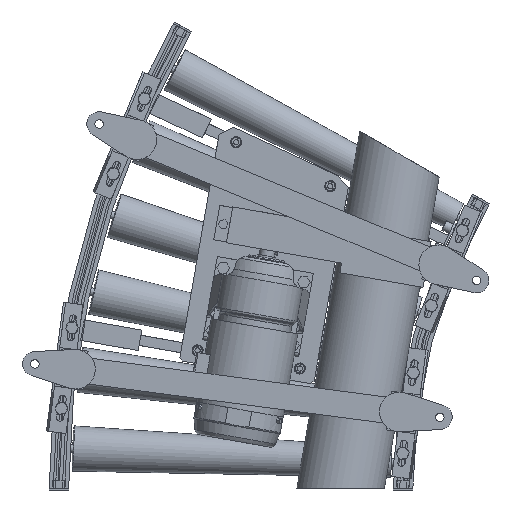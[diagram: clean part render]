
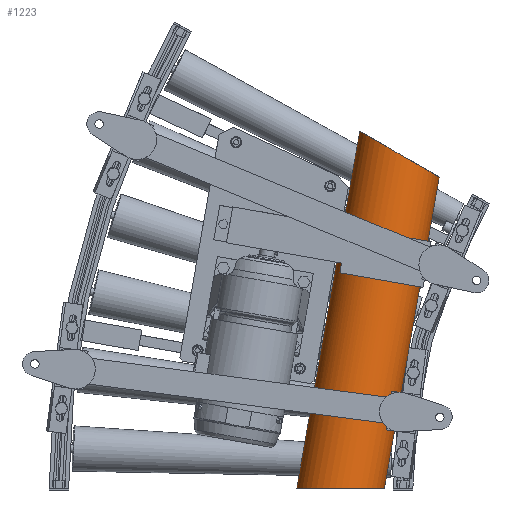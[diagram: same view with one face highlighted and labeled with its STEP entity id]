
A CAD part, front view. The second image highlights one B-rep face of the part: STEP entity #1223.
In plain terms, the highlighted cylindrical face has radius 66.3 mm (diameter 132.6 mm), a partial arc.
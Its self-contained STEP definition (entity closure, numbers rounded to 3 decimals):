
#1223=ADVANCED_FACE('',(#4935),#4934,.T.);
#4934=CYLINDRICAL_SURFACE('',#26766,66.3);
#4935=FACE_OUTER_BOUND('',#26767,.T.);
#26763=CARTESIAN_POINT('',(371.788,-151.7,1151.24));
#26764=DIRECTION('',(0.174,0.,0.985));
#26765=DIRECTION('',(0.985,0.,-0.174));
#26766=AXIS2_PLACEMENT_3D('',#26763,#26764,#26765);
#26767=EDGE_LOOP('',(#38571,#38572,#38573,#38574));
#38571=ORIENTED_EDGE('',*,*,#49186,.F.);
#38572=ORIENTED_EDGE('',*,*,#49185,.T.);
#38573=ORIENTED_EDGE('',*,*,#49187,.F.);
#38574=ORIENTED_EDGE('',*,*,#49188,.F.);
#49185=EDGE_CURVE('',#56760,#56774,#56781,.T.);
#49186=EDGE_CURVE('',#56760,#56787,#56788,.T.);
#49187=EDGE_CURVE('',#56794,#56774,#56795,.T.);
#49188=EDGE_CURVE('',#56787,#56794,#56801,.T.);
#56760=VERTEX_POINT('',#92227);
#56774=VERTEX_POINT('',#92235);
#56781=LINE('',#92239,#92240);
#56787=VERTEX_POINT('',#92242);
#56788=(BOUNDED_CURVE() B_SPLINE_CURVE(2,(#92243,#92244,#92245,#92246,#92247),.UNSPECIFIED.,.F.,.F.) B_SPLINE_CURVE_WITH_KNOTS((3,2,3),(3.142,4.712,6.283),.UNSPECIFIED.) CURVE() GEOMETRIC_REPRESENTATION_ITEM() RATIONAL_B_SPLINE_CURVE((1.,0.707,1.,0.707,1.)) REPRESENTATION_ITEM('') );
#56794=VERTEX_POINT('',#92248);
#56795=(BOUNDED_CURVE() B_SPLINE_CURVE(2,(#92249,#92250,#92251,#92252,#92253),.UNSPECIFIED.,.F.,.F.) B_SPLINE_CURVE_WITH_KNOTS((3,2,3),(3.142,4.712,6.283),.UNSPECIFIED.) CURVE() GEOMETRIC_REPRESENTATION_ITEM() RATIONAL_B_SPLINE_CURVE((1.,0.707,1.,0.707,1.)) REPRESENTATION_ITEM('') );
#56801=LINE('',#92254,#92255);
#92227=CARTESIAN_POINT('',(198.351,-151.7,549.435));
#92235=CARTESIAN_POINT('',(101.47,-151.7,0.));
#92239=CARTESIAN_POINT('',(198.351,-151.7,549.435));
#92240=VECTOR('',#92241,557.911);
#92241=DIRECTION('',(-0.174,0.,-0.985));
#92242=CARTESIAN_POINT('',(320.555,-151.7,478.88));
#92243=CARTESIAN_POINT('',(198.351,-151.7,549.435));
#92244=CARTESIAN_POINT('',(198.351,-218.,549.435));
#92245=CARTESIAN_POINT('',(259.453,-218.,514.158));
#92246=CARTESIAN_POINT('',(320.555,-218.,478.88));
#92247=CARTESIAN_POINT('',(320.555,-151.7,478.88));
#92248=CARTESIAN_POINT('',(236.116,-151.7,0.));
#92249=CARTESIAN_POINT('',(236.116,-151.7,0.));
#92250=CARTESIAN_POINT('',(236.116,-218.,0.));
#92251=CARTESIAN_POINT('',(168.793,-218.,0.));
#92252=CARTESIAN_POINT('',(101.47,-218.,0.));
#92253=CARTESIAN_POINT('',(101.47,-151.7,0.));
#92254=CARTESIAN_POINT('',(320.555,-151.7,478.88));
#92255=VECTOR('',#92256,486.268);
#92256=DIRECTION('',(-0.174,0.,-0.985));
